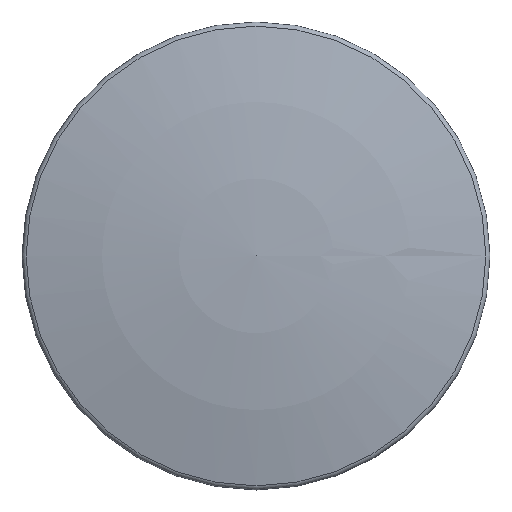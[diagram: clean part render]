
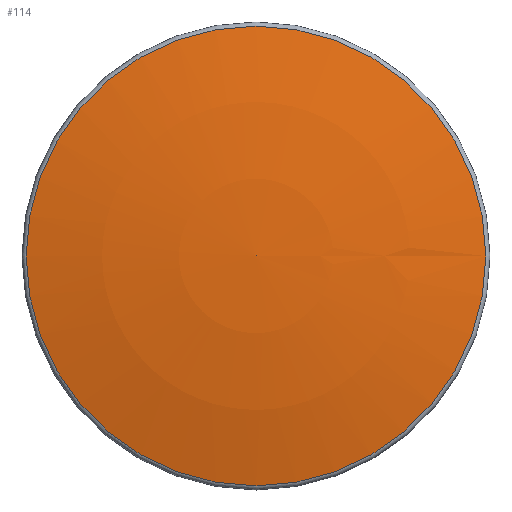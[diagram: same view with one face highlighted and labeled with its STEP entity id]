
A CAD part, top view. The second image highlights one B-rep face of the part: STEP entity #114.
In plain terms, the highlighted spherical face has radius 200.001 mm.
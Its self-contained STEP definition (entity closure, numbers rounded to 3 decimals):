
#28=FACE_OUTER_BOUND($,#38,.T.);
#38=EDGE_LOOP($,(#83));
#56=CIRCLE($,#128,43.216);
#65=VERTEX_POINT($,#188);
#74=EDGE_CURVE($,#65,#65,#56,.T.);
#83=ORIENTED_EDGE($,*,*,#74,.F.);
#101=SPHERICAL_SURFACE($,#127,200.001);
#114=ADVANCED_FACE($,(#28),#101,.T.);
#127=AXIS2_PLACEMENT_3D($,#187,#148,#149);
#128=AXIS2_PLACEMENT_3D($,#189,#150,#151);
#148=DIRECTION('center_axis',(0.,0.,1.));
#149=DIRECTION('ref_axis',(1.,0.,0.));
#150=DIRECTION('center_axis',(0.,0.,-1.));
#151=DIRECTION('ref_axis',(1.,0.,0.));
#187=CARTESIAN_POINT('Origin',(0.,0.,-146.001));
#188=CARTESIAN_POINT('',(0.,43.216,49.275));
#189=CARTESIAN_POINT('Origin',(0.,0.,49.275));
